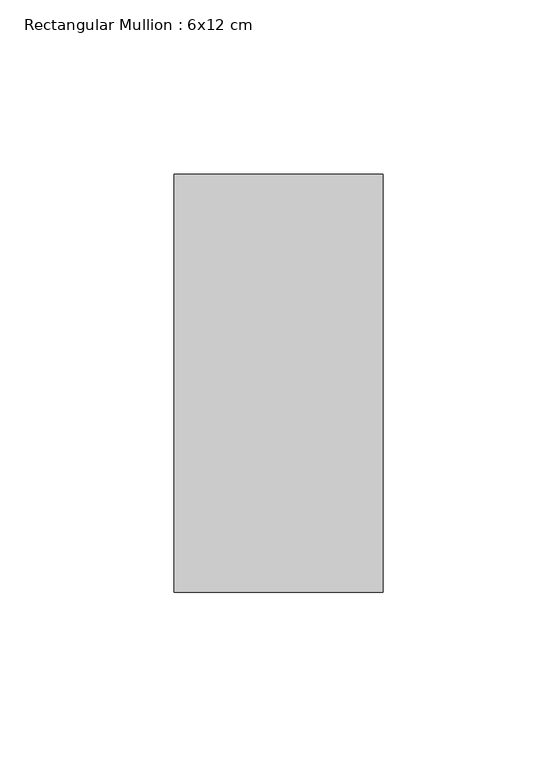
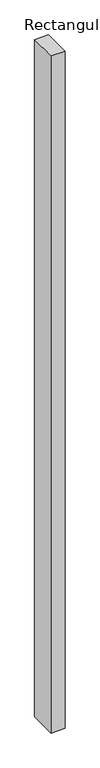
"""IFC4 building model written with IfcOpenShell, lengths in millimetres: member geometry, Rectangular Mullion : 6x12 cm."""

from ifc_helpers import new_model, si_unit, frame, origin, place, context, project, spatial, polyline, outline, extrude, source, transform, mapped, element, save


def rectangular_mullion_6x12_cm_fd4ccd64(model_context):
    return source(origin(), model_context, "Body", "SweptSolid", [
        extrude(outline(polyline([(30.0, 205.0), (30.0, 85.0), (-30.0, 85.0), (-30.0, 205.0), (30.0, 205.0)])), frame((0.0, 0.0, -3063.10865), z_axis=(0.0, 0.0, 1.0), x_axis=(1.0, 0.0, 0.0)), (0.0, 0.0, 1.0), 3063.10865),
    ])


if __name__ == "__main__":
    model = new_model("IFC4")
    model_context = context("Model", 3, world=origin())
    ifc_project = project(units=[si_unit("LENGTHUNIT", "METRE", prefix="MILLI")], contexts=[model_context])
    site = spatial("IfcSite", under=ifc_project)
    building = spatial("IfcBuilding", under=site)
    placement = place(None, origin())
    rectangular_mullion_6x12_cm_shape = rectangular_mullion_6x12_cm_fd4ccd64(model_context)
    element("IfcMember", 1, ObjectType="Rectangular Mullion : 6x12 cm", at=placement, inside=building, context=model_context, shape_type="MappedRepresentation", body=[
        mapped(rectangular_mullion_6x12_cm_shape, transform((0.0, 0.0, 0.0), x_axis=(1.0, 0.0, 0.0), y_axis=(0.0, 1.0, 0.0), z_axis=(0.0, 0.0, 1.0))),
    ])
    save(model, "model.ifc")
